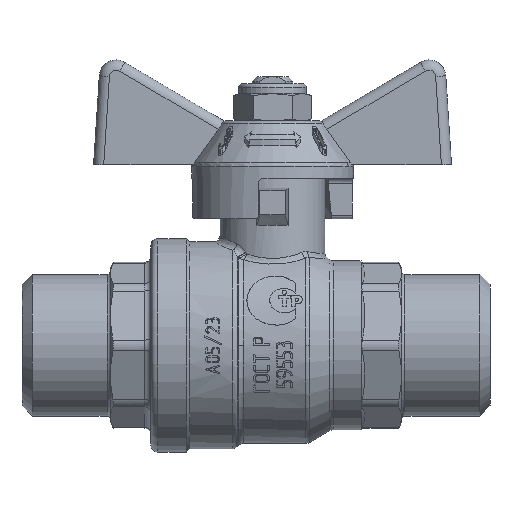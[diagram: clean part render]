
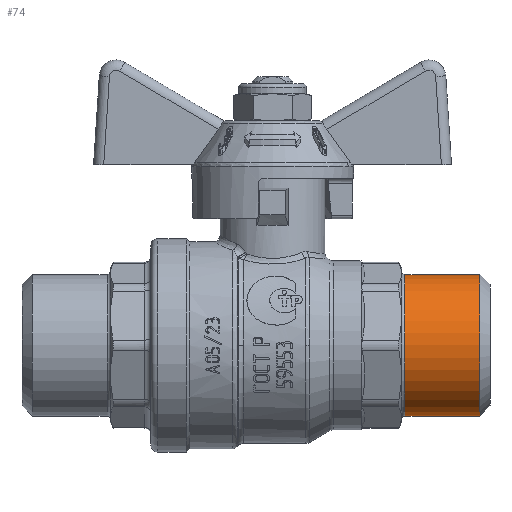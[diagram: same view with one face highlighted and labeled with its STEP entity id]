
A CAD part, left-side view. The second image highlights one B-rep face of the part: STEP entity #74.
In plain terms, the highlighted cylindrical face has radius 10.477 mm (diameter 20.955 mm), a full revolution.
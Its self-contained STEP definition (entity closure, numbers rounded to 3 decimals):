
#74=ADVANCED_FACE('',(#1348,#1350),#1352,.T.);
#1348=FACE_OUTER_BOUND('',#1349,.T.);
#1349=EDGE_LOOP('',(#9090));
#1350=FACE_OUTER_BOUND('',#1351,.T.);
#1351=EDGE_LOOP('',(#9091));
#1352=CYLINDRICAL_SURFACE('',#1353,10.478);
#1353=AXIS2_PLACEMENT_3D('',#1354,#1355,#1356);
#1354=CARTESIAN_POINT('',(0.,-34.6,0.));
#1355=DIRECTION('',(0.,1.,0.));
#1356=DIRECTION('',(1.,0.,0.));
#9090=ORIENTED_EDGE('',*,*,#16879,.F.);
#9091=ORIENTED_EDGE('',*,*,#16877,.F.);
#16877=EDGE_CURVE('',#19954,#19954,#19955,.F.);
#16879=EDGE_CURVE('',#19958,#19958,#19959,.T.);
#19954=VERTEX_POINT('',#25252);
#19955=CIRCLE('',#25253,10.478);
#19958=VERTEX_POINT('',#25262);
#19959=CIRCLE('',#25263,10.478);
#25252=CARTESIAN_POINT('',(10.478,-46.2,0.));
#25253=AXIS2_PLACEMENT_3D('',#25254,#25255,#25256);
#25254=CARTESIAN_POINT('',(0.,-46.2,0.));
#25255=DIRECTION('',(0.,1.,0.));
#25256=DIRECTION('',(1.,0.,0.));
#25262=CARTESIAN_POINT('',(10.478,-35.1,0.));
#25263=AXIS2_PLACEMENT_3D('',#25264,#25265,#25266);
#25264=CARTESIAN_POINT('',(0.,-35.1,0.));
#25265=DIRECTION('',(0.,1.,0.));
#25266=DIRECTION('',(1.,0.,0.));
